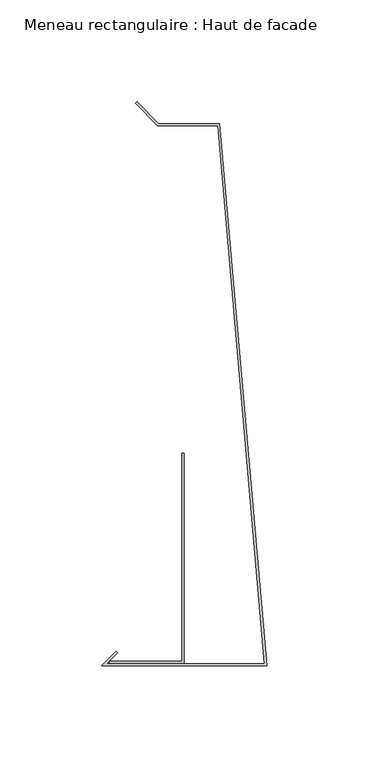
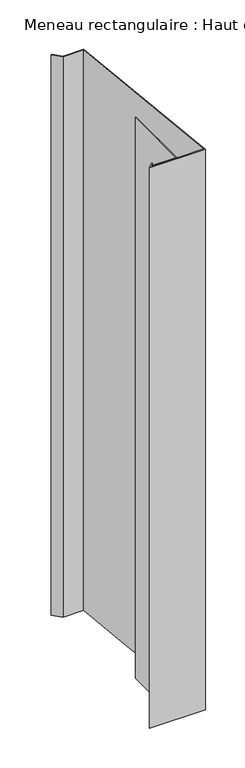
"""IFC4 building model written with IfcOpenShell, lengths in millimetres: member geometry, Meneau rectangulaire : Haut de facade."""

from ifc_helpers import new_model, si_unit, frame, origin, place, context, project, spatial, polyline, outline, extrude, source, transform, mapped, element, save


def meneau_rectangulaire_haut_de_facade_865cd38e(model_context):
    return source(origin(), model_context, "Body", "SweptSolid", [
        extrude(outline(polyline([(-24.0647895, 160.703755), (-53.5626719, 160.703755), (-64.4621669, 171.6032499), (-63.7550601, 172.3103567), (-53.1484584, 161.703755), (-23.1484584, 161.703755), (0.0, -104.2), (-81.0, -104.2), (-73.9289322, -97.1289322), (-73.2218254, -97.836039), (-78.5857864, -103.2), (-1.0913085, -103.2), (-24.0647895, 160.703755)])), frame((0.0, 0.0, -860.0), z_axis=(0.0, 0.0, 1.0), x_axis=(1.0, 0.0, 0.0)), (0.0, 0.0, 1.0), 860.0),
        extrude(outline(polyline([(-40.5477541, -102.9846816), (-77.0752814, -102.9846816), (-77.0752814, -101.9846816), (-41.5477541, -101.9846816), (-41.5477541, -0.0384227), (-40.5477541, -0.0384227), (-40.5477541, -102.9846816)])), frame((0.0, 0.0, -860.0), z_axis=(0.0, 0.0, 1.0), x_axis=(1.0, 0.0, 0.0)), (0.0, 0.0, 1.0), 860.0),
    ])


if __name__ == "__main__":
    model = new_model("IFC4")
    model_context = context("Model", 3, world=origin())
    ifc_project = project(units=[si_unit("LENGTHUNIT", "METRE", prefix="MILLI")], contexts=[model_context])
    site = spatial("IfcSite", under=ifc_project)
    building = spatial("IfcBuilding", under=site)
    placement = place(None, origin())
    meneau_rectangulaire_haut_de_facade_shape = meneau_rectangulaire_haut_de_facade_865cd38e(model_context)
    element("IfcMember", 1, ObjectType="Meneau rectangulaire : Haut de facade", at=placement, inside=building, context=model_context, shape_type="MappedRepresentation", body=[
        mapped(meneau_rectangulaire_haut_de_facade_shape, transform((0.0, 0.0, 0.0), x_axis=(1.0, 0.0, 0.0), y_axis=(0.0, 1.0, 0.0), z_axis=(0.0, 0.0, 1.0))),
    ])
    save(model, "model.ifc")
